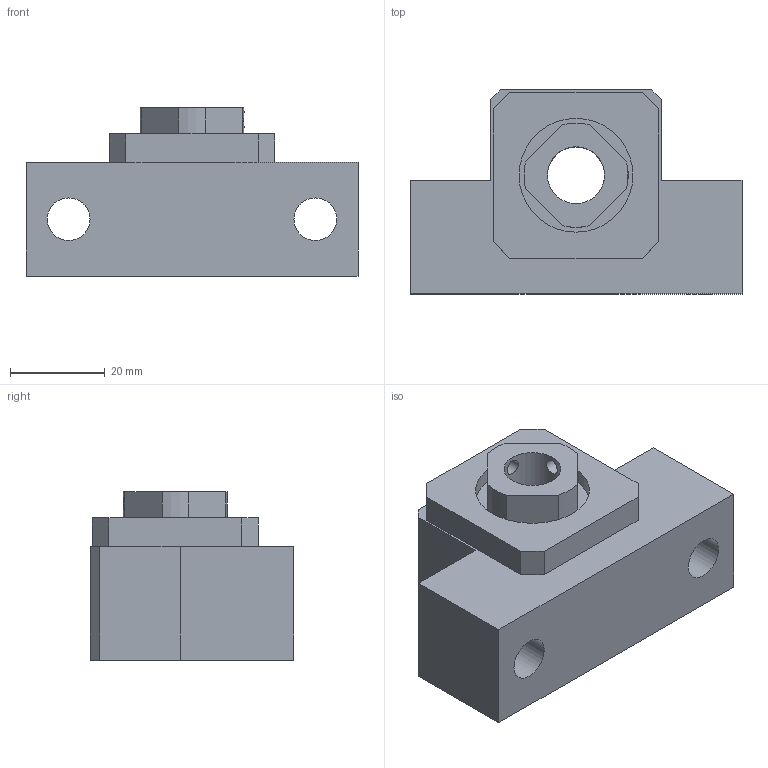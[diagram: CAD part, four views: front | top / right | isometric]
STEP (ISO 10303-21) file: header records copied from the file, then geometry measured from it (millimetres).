
FILE_DESCRIPTION(/* description */ (''),/* implementation_level */ '2;1');
FILE_NAME(/* name */ 'C:\Users\tenki620635\Desktop\官網\圖面\軸承座\3D\setp檔\EK12.stp',/* time_stamp */ '2020-12-18T19:19:11+08:00',/* author */ ('tenki620635'),/* organization */ (''),/* preprocessor_version */ 'ST-DEVELOPER v15.2',/* originating_system */ 'Autodesk Inventor 2014',/* authorisation */ '');
FILE_SCHEMA (('AUTOMOTIVE_DESIGN { 1 0 10303 214 3 1 1 }'));
Length unit declared in the file: millimetre
Products named in the file (1): EK12
Bounding box: 70 x 43 x 35.5 mm (x, y, z)
Volume: 57741.1 mm3; surface area: 14314.9 mm2
Topology: 1 solids, 1 shells, 45 faces, 116 edges, 79 vertices
Faces by surface type: plane 31, cylinder 14
Full cylindrical faces by diameter (mm): 3.242 x2, 9 x2, 12 x1, 15.5 x2, 16 x1, 24 x2
Entity records: 1439 total; most frequent: CARTESIAN_POINT 356, DIRECTION 210, ORIENTED_EDGE 200, EDGE_CURVE 100, VERTEX_POINT 74, EDGE_LOOP 72, LINE 70, VECTOR 70
